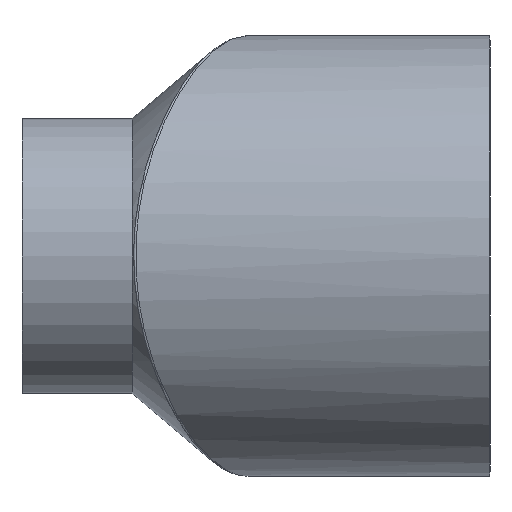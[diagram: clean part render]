
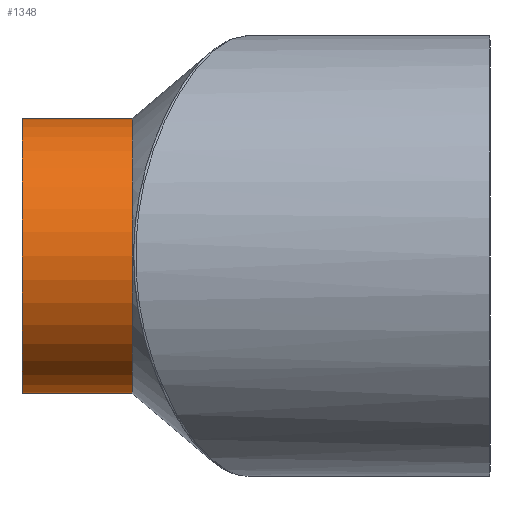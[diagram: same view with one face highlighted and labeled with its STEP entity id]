
A CAD part, front view. The second image highlights one B-rep face of the part: STEP entity #1348.
In plain terms, the highlighted cylindrical face has radius 31.75 mm (diameter 63.5 mm), a partial arc.
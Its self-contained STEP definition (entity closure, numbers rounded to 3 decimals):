
#40 = LINE ( 'NONE', #554, #927 ) ;
#97 = EDGE_CURVE ( 'NONE', #830, #1284, #684, .T. ) ;
#160 = VERTEX_POINT ( 'NONE', #383 ) ;
#201 = FACE_OUTER_BOUND ( 'NONE', #1343, .T. ) ;
#235 = ORIENTED_EDGE ( 'NONE', *, *, #677, .T. ) ;
#383 = CARTESIAN_POINT ( 'NONE',  ( -82.55, -18.59, 31.75 ) ) ;
#389 = ORIENTED_EDGE ( 'NONE', *, *, #1055, .F. ) ;
#436 = CARTESIAN_POINT ( 'NONE',  ( -107.95, -18.59, 31.75 ) ) ;
#488 = DIRECTION ( 'NONE',  ( 1., 0., 0. ) ) ;
#554 = CARTESIAN_POINT ( 'NONE',  ( -73.92, -18.59, 31.75 ) ) ;
#572 = DIRECTION ( 'NONE',  ( 1., 0., 0. ) ) ;
#651 = AXIS2_PLACEMENT_3D ( 'NONE', #1027, #1075, #928 ) ;
#653 = ORIENTED_EDGE ( 'NONE', *, *, #97, .T. ) ;
#677 = EDGE_CURVE ( 'NONE', #1284, #844, #842, .T. ) ;
#684 = CIRCLE ( 'NONE', #651, 31.75 ) ;
#830 = VERTEX_POINT ( 'NONE', #436 ) ;
#842 = LINE ( 'NONE', #1450, #1212 ) ;
#844 = VERTEX_POINT ( 'NONE', #1396 ) ;
#891 = CARTESIAN_POINT ( 'NONE',  ( -73.92, -18.59, 0. ) ) ;
#927 = VECTOR ( 'NONE', #488, 1000. ) ;
#928 = DIRECTION ( 'NONE',  ( 0., 0., -1. ) ) ;
#977 = AXIS2_PLACEMENT_3D ( 'NONE', #1140, #1353, #1324 ) ;
#1027 = CARTESIAN_POINT ( 'NONE',  ( -107.95, -18.59, 0. ) ) ;
#1055 = EDGE_CURVE ( 'NONE', #160, #844, #1057, .T. ) ;
#1057 = CIRCLE ( 'NONE', #977, 31.75 ) ;
#1075 = DIRECTION ( 'NONE',  ( 1., 0., 0. ) ) ;
#1080 = DIRECTION ( 'NONE',  ( 1., 0., 0. ) ) ;
#1140 = CARTESIAN_POINT ( 'NONE',  ( -82.55, -18.59, 0. ) ) ;
#1212 = VECTOR ( 'NONE', #572, 1000. ) ;
#1270 = EDGE_CURVE ( 'NONE', #830, #160, #40, .T. ) ;
#1284 = VERTEX_POINT ( 'NONE', #1351 ) ;
#1302 = ORIENTED_EDGE ( 'NONE', *, *, #1270, .F. ) ;
#1303 = CYLINDRICAL_SURFACE ( 'NONE', #1332, 31.75 ) ;
#1324 = DIRECTION ( 'NONE',  ( 0., 0., -1. ) ) ;
#1332 = AXIS2_PLACEMENT_3D ( 'NONE', #891, #1080, #1366 ) ;
#1343 = EDGE_LOOP ( 'NONE', ( #1302, #653, #235, #389 ) ) ;
#1348 = ADVANCED_FACE ( 'NONE', ( #201 ), #1303, .T. ) ;
#1351 = CARTESIAN_POINT ( 'NONE',  ( -107.95, -18.59, -31.75 ) ) ;
#1353 = DIRECTION ( 'NONE',  ( 1., 0., 0. ) ) ;
#1366 = DIRECTION ( 'NONE',  ( 0., 0., -1. ) ) ;
#1396 = CARTESIAN_POINT ( 'NONE',  ( -82.55, -18.59, -31.75 ) ) ;
#1450 = CARTESIAN_POINT ( 'NONE',  ( -73.92, -18.59, -31.75 ) ) ;
